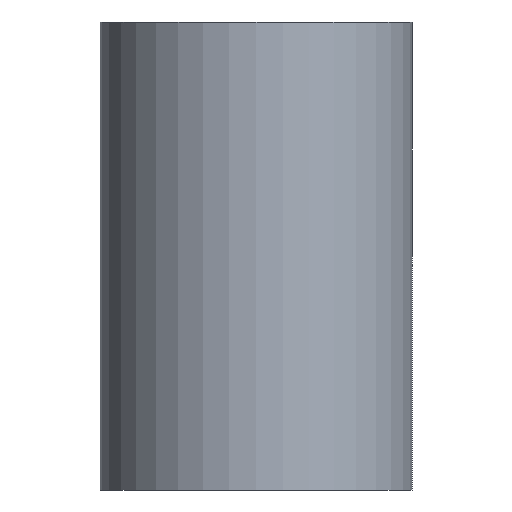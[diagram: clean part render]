
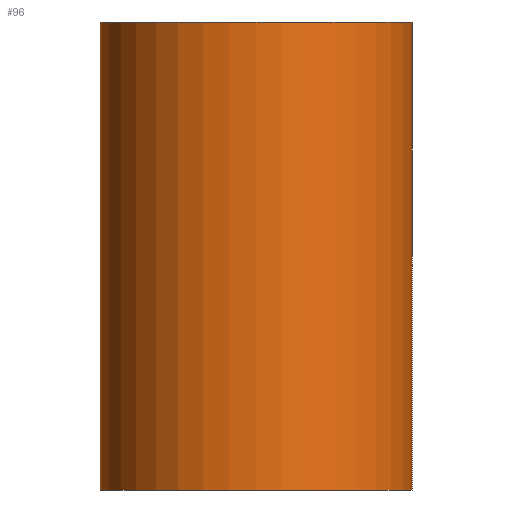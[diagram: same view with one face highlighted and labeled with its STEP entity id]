
A CAD part, front view. The second image highlights one B-rep face of the part: STEP entity #96.
In plain terms, the highlighted cylindrical face has radius 4 mm (diameter 8 mm), a full revolution.
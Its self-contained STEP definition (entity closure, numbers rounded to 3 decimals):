
#19=FACE_BOUND('',#36,.T.);
#23=CIRCLE('',#126,4.);
#24=CIRCLE('',#128,4.);
#28=FACE_OUTER_BOUND('',#35,.T.);
#35=EDGE_LOOP('',(#81,#82,#83,#84));
#36=EDGE_LOOP('',(#85,#86,#87));
#41=LINE('',#244,#44);
#44=VECTOR('',#150,4.);
#45=B_SPLINE_CURVE_WITH_KNOTS('',3,(#157,#158,#159,#160,#161,#162,#163,
#164,#165,#166,#167,#168,#169,#170,#171,#172,#173,#174),.UNSPECIFIED.,.F.,
 .F.,(4,2,2,2,2,2,2,2,4),(0.228,0.286,0.343,
0.4,0.457,0.514,0.571,
0.628,0.685),.UNSPECIFIED.);
#46=B_SPLINE_CURVE_WITH_KNOTS('',3,(#176,#177,#178,#179,#180,#181,#182,
#183,#184,#185),.UNSPECIFIED.,.F.,.F.,(4,2,2,2,4),(0.914,0.971,
1.028,1.085,1.142),.UNSPECIFIED.);
#48=B_SPLINE_CURVE_WITH_KNOTS('',3,(#222,#223,#224,#225,#226,#227,#228,
#229,#230,#231),.UNSPECIFIED.,.F.,.F.,(4,2,2,2,4),(0.685,0.742,
0.8,0.857,0.914),.UNSPECIFIED.);
#49=VERTEX_POINT('',#155);
#50=VERTEX_POINT('',#156);
#51=VERTEX_POINT('',#175);
#55=VERTEX_POINT('',#239);
#56=VERTEX_POINT('',#242);
#57=EDGE_CURVE('',#49,#50,#45,.T.);
#58=EDGE_CURVE('',#51,#49,#46,.T.);
#61=EDGE_CURVE('',#50,#51,#48,.T.);
#65=EDGE_CURVE('',#55,#55,#23,.T.);
#66=EDGE_CURVE('',#56,#56,#24,.T.);
#67=EDGE_CURVE('',#56,#55,#41,.T.);
#81=ORIENTED_EDGE('',*,*,#66,.F.);
#82=ORIENTED_EDGE('',*,*,#67,.T.);
#83=ORIENTED_EDGE('',*,*,#65,.T.);
#84=ORIENTED_EDGE('',*,*,#67,.F.);
#85=ORIENTED_EDGE('',*,*,#57,.T.);
#86=ORIENTED_EDGE('',*,*,#61,.T.);
#87=ORIENTED_EDGE('',*,*,#58,.T.);
#92=CYLINDRICAL_SURFACE('',#127,4.);
#96=ADVANCED_FACE('',(#28,#19),#92,.T.);
#126=AXIS2_PLACEMENT_3D('',#240,#144,#145);
#127=AXIS2_PLACEMENT_3D('',#241,#146,#147);
#128=AXIS2_PLACEMENT_3D('',#243,#148,#149);
#144=DIRECTION('center_axis',(0.,0.,-1.));
#145=DIRECTION('ref_axis',(1.,0.,0.));
#146=DIRECTION('center_axis',(0.,0.,-1.));
#147=DIRECTION('ref_axis',(0.,1.,0.));
#148=DIRECTION('center_axis',(0.,0.,-1.));
#149=DIRECTION('ref_axis',(1.,0.,0.));
#150=DIRECTION('',(0.,0.,1.));
#155=CARTESIAN_POINT('',(0.,4.,-1.5));
#156=CARTESIAN_POINT('',(0.,4.,-4.5));
#157=CARTESIAN_POINT('Ctrl Pts',(0.,4.,-1.5));
#158=CARTESIAN_POINT('Ctrl Pts',(-0.19,4.,-1.5));
#159=CARTESIAN_POINT('Ctrl Pts',(-0.392,3.985,-1.538));
#160=CARTESIAN_POINT('Ctrl Pts',(-0.761,3.931,-1.692));
#161=CARTESIAN_POINT('Ctrl Pts',(-0.929,3.893,-1.807));
#162=CARTESIAN_POINT('Ctrl Pts',(-1.193,3.82,-2.072));
#163=CARTESIAN_POINT('Ctrl Pts',(-1.308,3.781,-2.239));
#164=CARTESIAN_POINT('Ctrl Pts',(-1.462,3.724,-2.608));
#165=CARTESIAN_POINT('Ctrl Pts',(-1.5,3.708,-2.81));
#166=CARTESIAN_POINT('Ctrl Pts',(-1.5,3.708,-3.19));
#167=CARTESIAN_POINT('Ctrl Pts',(-1.462,3.724,-3.392));
#168=CARTESIAN_POINT('Ctrl Pts',(-1.308,3.781,-3.761));
#169=CARTESIAN_POINT('Ctrl Pts',(-1.193,3.82,-3.928));
#170=CARTESIAN_POINT('Ctrl Pts',(-0.929,3.893,-4.193));
#171=CARTESIAN_POINT('Ctrl Pts',(-0.761,3.931,-4.308));
#172=CARTESIAN_POINT('Ctrl Pts',(-0.392,3.985,-4.462));
#173=CARTESIAN_POINT('Ctrl Pts',(-0.19,4.,-4.5));
#174=CARTESIAN_POINT('Ctrl Pts',(0.,4.,-4.5));
#175=CARTESIAN_POINT('',(1.5,3.708,-3.));
#176=CARTESIAN_POINT('Ctrl Pts',(1.5,3.708,-3.));
#177=CARTESIAN_POINT('Ctrl Pts',(1.5,3.708,-2.81));
#178=CARTESIAN_POINT('Ctrl Pts',(1.462,3.724,-2.608));
#179=CARTESIAN_POINT('Ctrl Pts',(1.308,3.781,-2.239));
#180=CARTESIAN_POINT('Ctrl Pts',(1.193,3.82,-2.072));
#181=CARTESIAN_POINT('Ctrl Pts',(0.929,3.893,-1.807));
#182=CARTESIAN_POINT('Ctrl Pts',(0.761,3.931,-1.692));
#183=CARTESIAN_POINT('Ctrl Pts',(0.392,3.985,-1.538));
#184=CARTESIAN_POINT('Ctrl Pts',(0.19,4.,-1.5));
#185=CARTESIAN_POINT('Ctrl Pts',(0.,4.,-1.5));
#222=CARTESIAN_POINT('Ctrl Pts',(0.,4.,-4.5));
#223=CARTESIAN_POINT('Ctrl Pts',(0.19,4.,-4.5));
#224=CARTESIAN_POINT('Ctrl Pts',(0.392,3.985,-4.462));
#225=CARTESIAN_POINT('Ctrl Pts',(0.761,3.931,-4.308));
#226=CARTESIAN_POINT('Ctrl Pts',(0.929,3.893,-4.193));
#227=CARTESIAN_POINT('Ctrl Pts',(1.193,3.82,-3.928));
#228=CARTESIAN_POINT('Ctrl Pts',(1.308,3.781,-3.761));
#229=CARTESIAN_POINT('Ctrl Pts',(1.462,3.724,-3.392));
#230=CARTESIAN_POINT('Ctrl Pts',(1.5,3.708,-3.19));
#231=CARTESIAN_POINT('Ctrl Pts',(1.5,3.708,-3.));
#239=CARTESIAN_POINT('',(0.,-4.,6.));
#240=CARTESIAN_POINT('Origin',(0.,0.,6.));
#241=CARTESIAN_POINT('Origin',(0.,0.,0.));
#242=CARTESIAN_POINT('',(0.,-4.,-6.));
#243=CARTESIAN_POINT('Origin',(0.,0.,-6.));
#244=CARTESIAN_POINT('',(0.,-4.,0.));
